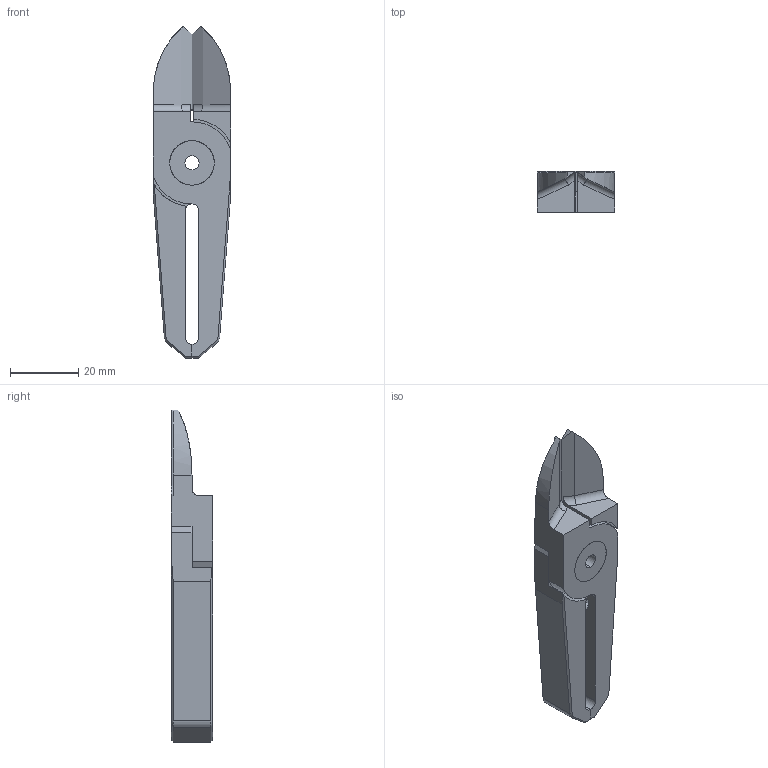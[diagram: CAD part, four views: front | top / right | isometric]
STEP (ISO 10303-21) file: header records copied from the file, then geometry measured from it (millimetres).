
FILE_DESCRIPTION (( 'STEP AP214' ), '1' );
FILE_NAME ('NT20AJ.STEP', '2019-11-28T09:00:21', ( '微软用户' ), ( '微软中国' ), 'SwSTEP 2.0', 'SolidWorks 2016', '' );
FILE_SCHEMA (( 'AUTOMOTIVE_DESIGN' ));
Length unit declared in the file: millimetre
Products named in the file (1): NT20AJ
Bounding box: 22.5 x 12 x 97 mm (x, y, z)
Surface area: 9376.8 mm2 (no closed solid volume)
Topology: 0 solids, 7 shells, 110 faces, 327 edges, 213 vertices
Faces by surface type: plane 52, cylinder 38, cone 16, bspline 4
Entity records: 4990 total; most frequent: CARTESIAN_POINT 2075, DIRECTION 604, ORIENTED_EDGE 583, EDGE_CURVE 323, VERTEX_POINT 213, AXIS2_PLACEMENT_3D 206, LINE 192, VECTOR 192
